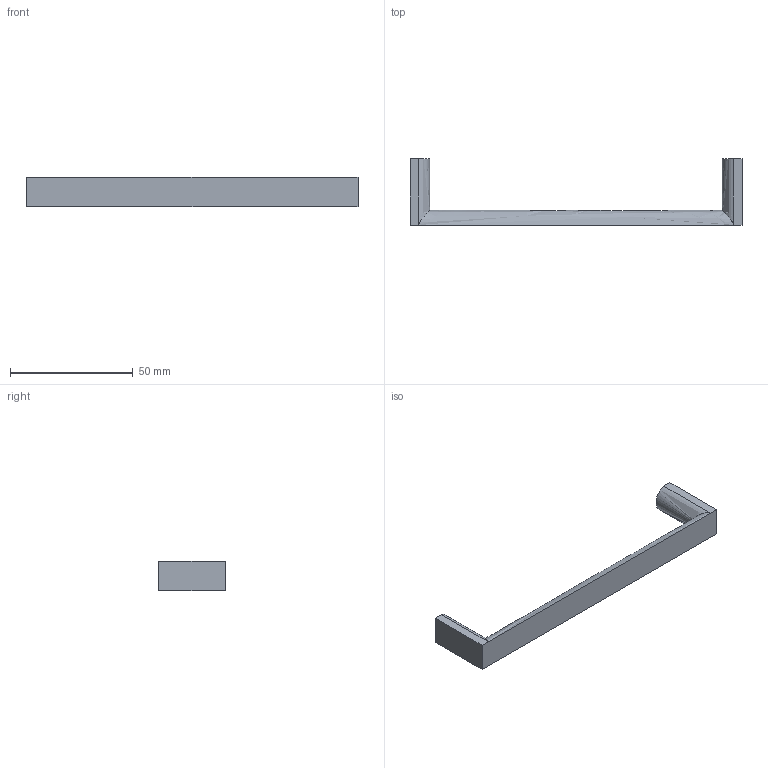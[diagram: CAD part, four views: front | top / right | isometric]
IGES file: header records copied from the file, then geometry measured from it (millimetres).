
Start section: Data from Parasolid IGES Translator 20.0.26, Copyright(c) 2006 Siemens P LM Software. All Rights Reserved.
Global section: file name: 9995547.igs; native system: By Siemens PLM Incorporated; preprocessor: XPlus GENERIC/IGES 20.0.26; author: Noname; organization: Noname; date: 20211115.184027; units: millimetre
Bounding box: 135 x 27 x 12 mm (x, y, z)
Surface area: 6158.8 mm2 (no closed solid volume)
Topology: 0 solids, 0 shells, 16 faces, 64 edges, 62 vertices
Faces by surface type: extrusion 11, revolution 5
